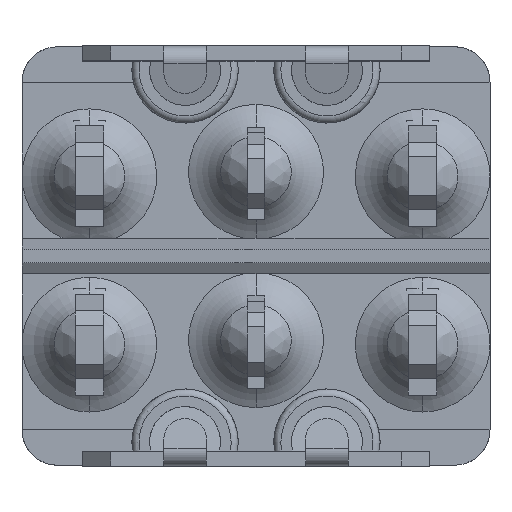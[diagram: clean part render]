
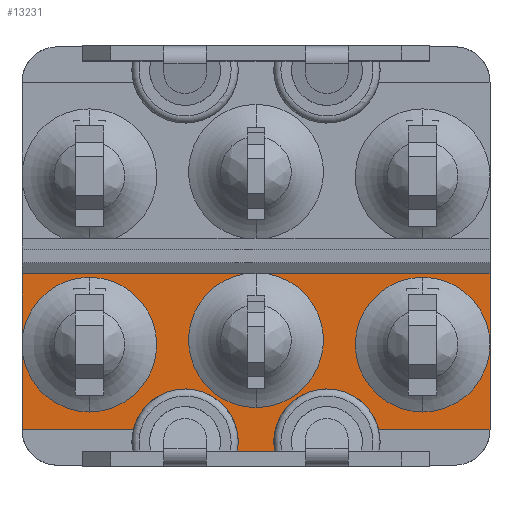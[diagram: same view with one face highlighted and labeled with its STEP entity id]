
A CAD part, front view. The second image highlights one B-rep face of the part: STEP entity #13231.
In plain terms, the highlighted planar face has unit normal (0, -1, 0).
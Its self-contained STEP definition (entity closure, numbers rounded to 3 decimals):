
#1552=DIRECTION('',(0.,0.,1.));
#1553=VECTOR('',#1552,2.4);
#1554=CARTESIAN_POINT('',(6.6,0.35,-4.9));
#1555=LINE('',#1554,#1553);
#1556=DIRECTION('',(0.,0.,1.));
#1557=VECTOR('',#1556,2.);
#1558=CARTESIAN_POINT('',(6.6,0.35,-2.5));
#1559=LINE('',#1558,#1557);
#1588=CARTESIAN_POINT('',(4.7,0.35,-2.5));
#1589=DIRECTION('',(0.,1.,0.));
#1590=DIRECTION('',(0.,0.,-1.));
#1591=AXIS2_PLACEMENT_3D('',#1588,#1589,#1590);
#1593=CARTESIAN_POINT('',(4.7,0.35,-2.5));
#1594=DIRECTION('',(0.,1.,0.));
#1595=DIRECTION('',(1.,0.,0.));
#1596=AXIS2_PLACEMENT_3D('',#1593,#1594,#1595);
#1598=DIRECTION('',(-1.,0.,0.));
#1599=VECTOR('',#1598,3.141);
#1600=CARTESIAN_POINT('',(6.6,0.35,-4.9));
#1601=LINE('',#1600,#1599);
#1602=CARTESIAN_POINT('',(2.,0.35,-5.25));
#1603=DIRECTION('',(0.,1.,0.));
#1604=DIRECTION('',(-0.986,0.,-0.167));
#1605=AXIS2_PLACEMENT_3D('',#1602,#1603,#1604);
#1607=CARTESIAN_POINT('',(-2.,0.35,-5.25));
#1608=DIRECTION('',(0.,1.,0.));
#1609=DIRECTION('',(-0.972,0.,0.233));
#1610=AXIS2_PLACEMENT_3D('',#1607,#1608,#1609);
#1612=DIRECTION('',(1.,0.,0.));
#1613=VECTOR('',#1612,3.141);
#1614=CARTESIAN_POINT('',(-6.6,0.35,-4.9));
#1615=LINE('',#1614,#1613);
#1616=CARTESIAN_POINT('',(-4.7,0.35,-2.5));
#1617=DIRECTION('',(0.,1.,0.));
#1618=DIRECTION('',(0.,0.,-1.));
#1619=AXIS2_PLACEMENT_3D('',#1616,#1617,#1618);
#1621=CARTESIAN_POINT('',(-4.7,0.35,-2.5));
#1622=DIRECTION('',(0.,1.,0.));
#1623=DIRECTION('',(0.,0.,1.));
#1624=AXIS2_PLACEMENT_3D('',#1621,#1622,#1623);
#1626=CARTESIAN_POINT('',(-4.7,0.35,-2.5));
#1627=DIRECTION('',(0.,1.,0.));
#1628=DIRECTION('',(-1.,0.,0.));
#1629=AXIS2_PLACEMENT_3D('',#1626,#1627,#1628);
#1631=DIRECTION('',(1.,0.,0.));
#1632=VECTOR('',#1631,6.293);
#1633=CARTESIAN_POINT('',(-6.6,0.35,-0.5));
#1634=LINE('',#1633,#1632);
#1635=CARTESIAN_POINT('',(0.,0.35,-2.375));
#1636=DIRECTION('',(0.,1.,0.));
#1637=DIRECTION('',(0.,0.,-1.));
#1638=AXIS2_PLACEMENT_3D('',#1635,#1636,#1637);
#1640=CARTESIAN_POINT('',(0.,0.35,-2.375));
#1641=DIRECTION('',(0.,1.,0.));
#1642=DIRECTION('',(0.162,0.,0.987));
#1643=AXIS2_PLACEMENT_3D('',#1640,#1641,#1642);
#1645=DIRECTION('',(1.,0.,0.));
#1646=VECTOR('',#1645,6.293);
#1647=CARTESIAN_POINT('',(0.307,0.35,-0.5));
#1648=LINE('',#1647,#1646);
#1649=CARTESIAN_POINT('',(4.7,0.35,-2.5));
#1650=DIRECTION('',(0.,1.,0.));
#1651=DIRECTION('',(0.,0.,1.));
#1652=AXIS2_PLACEMENT_3D('',#1649,#1650,#1651);
#3116=DIRECTION('',(0.,0.,-1.));
#3117=VECTOR('',#3116,2.);
#3118=CARTESIAN_POINT('',(-6.6,0.35,-0.5));
#3119=LINE('',#3118,#3117);
#3120=DIRECTION('',(0.,0.,-1.));
#3121=VECTOR('',#3120,2.4);
#3122=CARTESIAN_POINT('',(-6.6,0.35,-2.5));
#3123=LINE('',#3122,#3121);
#3259=DIRECTION('',(1.,0.,0.));
#3260=VECTOR('',#3259,1.042);
#3261=CARTESIAN_POINT('',(-0.521,0.35,-5.5));
#3262=LINE('',#3261,#3260);
#9068=CARTESIAN_POINT('',(-0.521,0.35,-5.5));
#9069=CARTESIAN_POINT('',(0.521,0.35,-5.5));
#9070=VERTEX_POINT('',#9068);
#9071=VERTEX_POINT('',#9069);
#9083=CARTESIAN_POINT('',(6.6,0.35,-4.9));
#9085=VERTEX_POINT('',#9083);
#9088=CARTESIAN_POINT('',(3.459,0.35,-4.9));
#9089=VERTEX_POINT('',#9088);
#9108=CARTESIAN_POINT('',(-6.6,0.35,-4.9));
#9110=VERTEX_POINT('',#9108);
#9120=CARTESIAN_POINT('',(-3.459,0.35,-4.9));
#9121=VERTEX_POINT('',#9120);
#9198=CARTESIAN_POINT('',(-6.6,0.35,-0.5));
#9199=VERTEX_POINT('',#9198);
#9202=CARTESIAN_POINT('',(6.6,0.35,-0.5));
#9203=VERTEX_POINT('',#9202);
#10783=CARTESIAN_POINT('',(-4.7,0.35,-0.6));
#10784=CARTESIAN_POINT('',(-4.7,0.35,-4.4));
#10785=VERTEX_POINT('',#10783);
#10786=VERTEX_POINT('',#10784);
#10787=CARTESIAN_POINT('',(-6.6,0.35,-2.5));
#10788=VERTEX_POINT('',#10787);
#10869=CARTESIAN_POINT('',(0.,0.35,-4.275));
#10870=CARTESIAN_POINT('',(-0.307,0.35,-0.5));
#10871=VERTEX_POINT('',#10869);
#10872=VERTEX_POINT('',#10870);
#10873=CARTESIAN_POINT('',(0.307,0.35,-0.5));
#10874=VERTEX_POINT('',#10873);
#10944=CARTESIAN_POINT('',(4.7,0.35,-4.4));
#10945=CARTESIAN_POINT('',(4.7,0.35,-0.6));
#10946=VERTEX_POINT('',#10944);
#10947=VERTEX_POINT('',#10945);
#10948=CARTESIAN_POINT('',(6.6,0.35,-2.5));
#10949=VERTEX_POINT('',#10948);
#13188=CARTESIAN_POINT('',(0.,0.35,-2.5));
#13189=DIRECTION('',(0.,-1.,0.));
#13190=DIRECTION('',(0.,0.,-1.));
#13191=AXIS2_PLACEMENT_3D('',#13188,#13189,#13190);
#13192=PLANE('',#13191);
#13194=ORIENTED_EDGE('',*,*,#13193,.F.);
#13196=ORIENTED_EDGE('',*,*,#13195,.F.);
#13197=ORIENTED_EDGE('',*,*,#13163,.F.);
#13199=ORIENTED_EDGE('',*,*,#13198,.T.);
#13201=ORIENTED_EDGE('',*,*,#13200,.F.);
#13203=ORIENTED_EDGE('',*,*,#13202,.F.);
#13205=ORIENTED_EDGE('',*,*,#13204,.F.);
#13207=ORIENTED_EDGE('',*,*,#13206,.F.);
#13209=ORIENTED_EDGE('',*,*,#13208,.F.);
#13211=ORIENTED_EDGE('',*,*,#13210,.F.);
#13213=ORIENTED_EDGE('',*,*,#13212,.F.);
#13215=ORIENTED_EDGE('',*,*,#13214,.F.);
#13217=ORIENTED_EDGE('',*,*,#13216,.F.);
#13219=ORIENTED_EDGE('',*,*,#13218,.T.);
#13221=ORIENTED_EDGE('',*,*,#13220,.F.);
#13223=ORIENTED_EDGE('',*,*,#13222,.F.);
#13225=ORIENTED_EDGE('',*,*,#13224,.T.);
#13226=ORIENTED_EDGE('',*,*,#13165,.F.);
#13228=ORIENTED_EDGE('',*,*,#13227,.F.);
#13229=EDGE_LOOP('',(#13194,#13196,#13197,#13199,#13201,#13203,#13205,#13207,
#13209,#13211,#13213,#13215,#13217,#13219,#13221,#13223,#13225,#13226,#13228));
#13230=FACE_OUTER_BOUND('',#13229,.F.);
#1592=CIRCLE('',#1591,1.9);
#1597=CIRCLE('',#1596,1.9);
#1606=CIRCLE('',#1605,1.5);
#1611=CIRCLE('',#1610,1.5);
#1620=CIRCLE('',#1619,1.9);
#1625=CIRCLE('',#1624,1.9);
#1630=CIRCLE('',#1629,1.9);
#1639=CIRCLE('',#1638,1.9);
#1644=CIRCLE('',#1643,1.9);
#1653=CIRCLE('',#1652,1.9);
#13163=EDGE_CURVE('',#9085,#10949,#1555,.T.);
#13165=EDGE_CURVE('',#10949,#9203,#1559,.T.);
#13193=EDGE_CURVE('',#10946,#10947,#1592,.T.);
#13195=EDGE_CURVE('',#10949,#10946,#1597,.T.);
#13198=EDGE_CURVE('',#9085,#9089,#1601,.T.);
#13200=EDGE_CURVE('',#9071,#9089,#1606,.T.);
#13202=EDGE_CURVE('',#9070,#9071,#3262,.T.);
#13204=EDGE_CURVE('',#9121,#9070,#1611,.T.);
#13206=EDGE_CURVE('',#9110,#9121,#1615,.T.);
#13208=EDGE_CURVE('',#10788,#9110,#3123,.T.);
#13210=EDGE_CURVE('',#10786,#10788,#1620,.T.);
#13212=EDGE_CURVE('',#10785,#10786,#1625,.T.);
#13214=EDGE_CURVE('',#10788,#10785,#1630,.T.);
#13216=EDGE_CURVE('',#9199,#10788,#3119,.T.);
#13218=EDGE_CURVE('',#9199,#10872,#1634,.T.);
#13220=EDGE_CURVE('',#10871,#10872,#1639,.T.);
#13222=EDGE_CURVE('',#10874,#10871,#1644,.T.);
#13224=EDGE_CURVE('',#10874,#9203,#1648,.T.);
#13227=EDGE_CURVE('',#10947,#10949,#1653,.T.);
#13231=ADVANCED_FACE('',(#13230),#13192,.T.);
